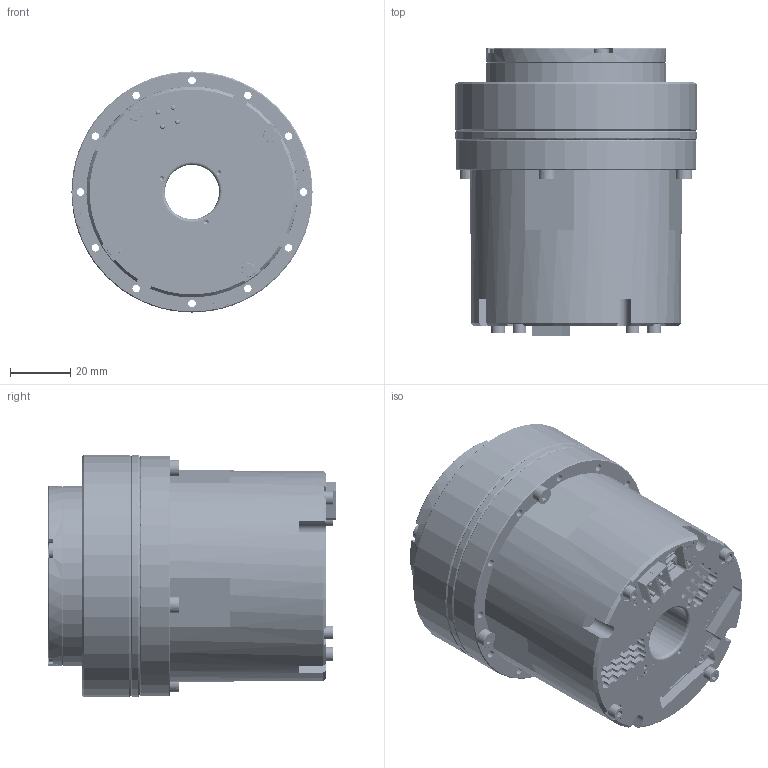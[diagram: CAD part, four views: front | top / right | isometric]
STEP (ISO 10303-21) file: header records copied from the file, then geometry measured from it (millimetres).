
FILE_DESCRIPTION (( 'STEP AP203' ), '1' );
FILE_NAME ('eRob80H｡ﾁ｡ﾁI_V3.STEP', '2022-11-08T06:33:46', ( 'Windows User' ), ( 'P R C' ), 'SwSTEP 2.0', 'SolidWorks 2021', '' );
FILE_SCHEMA (( 'CONFIG_CONTROL_DESIGN' ));
Length unit declared in the file: millimetre
Products named in the file (1): eRob80H℅℅I_V3
Bounding box: 80 x 95.7 x 80 mm (x, y, z)
Volume: 387715.9 mm3; surface area: 80117.8 mm2
Topology: 20 solids, 37 shells, 2922 faces, 7706 edges, 4995 vertices
Faces by surface type: plane 1596, cylinder 906, bspline 232, cone 138, torus 50
Full cylindrical faces by diameter (mm): 3 x4, 4.5 x4
Entity records: 124680 total; most frequent: CARTESIAN_POINT 56366, ORIENTED_EDGE 15224, DIRECTION 12665, EDGE_CURVE 7612, LINE 5117, VECTOR 5117, VERTEX_POINT 4991, AXIS2_PLACEMENT_3D 3774
